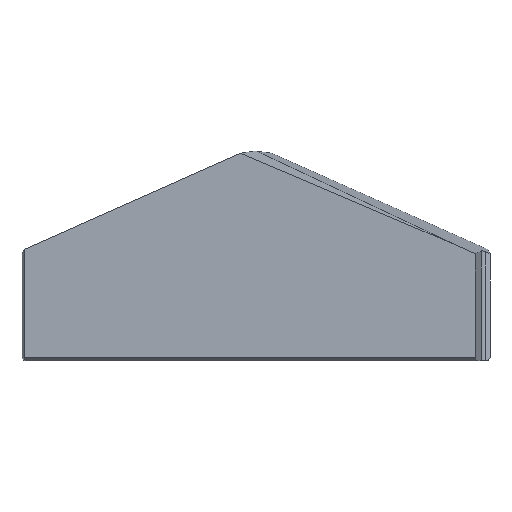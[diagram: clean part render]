
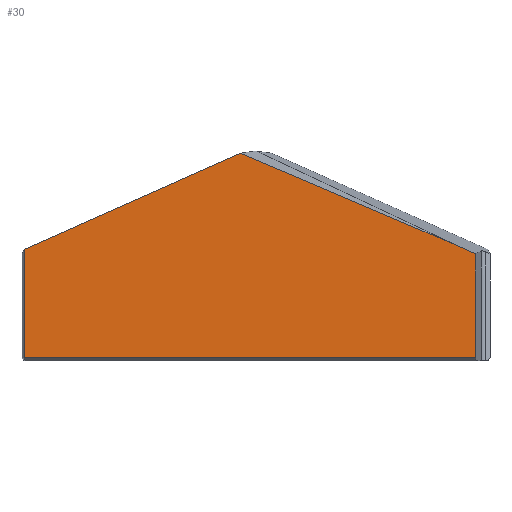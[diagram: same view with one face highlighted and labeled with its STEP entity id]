
A CAD part, top view. The second image highlights one B-rep face of the part: STEP entity #30.
In plain terms, the highlighted planar face has unit normal (0, 0, 1).
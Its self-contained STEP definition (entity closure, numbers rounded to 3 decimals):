
#11 = VERTEX_POINT ( 'NONE', #379 ) ;
#30 = ADVANCED_FACE ( 'NONE', ( #146 ), #46, .T. ) ;
#39 = CARTESIAN_POINT ( 'NONE',  ( -22.796, 0.3, 6.4 ) ) ;
#40 = VERTEX_POINT ( 'NONE', #95 ) ;
#46 = PLANE ( 'NONE',  #250 ) ;
#62 = DIRECTION ( 'NONE',  ( -0.92, 0.392, 0. ) ) ;
#76 = EDGE_CURVE ( 'NONE', #530, #410, #112, .T. ) ;
#81 = VECTOR ( 'NONE', #464, 1000. ) ;
#86 = ORIENTED_EDGE ( 'NONE', *, *, #192, .F. ) ;
#88 = VECTOR ( 'NONE', #599, 1000. ) ;
#95 = CARTESIAN_POINT ( 'NONE',  ( 21.57, 10.502, 6.4 ) ) ;
#99 = EDGE_CURVE ( 'NONE', #11, #419, #420, .T. ) ;
#105 = VECTOR ( 'NONE', #582, 1000. ) ;
#107 = CARTESIAN_POINT ( 'NONE',  ( 21.57, 0., 6.4 ) ) ;
#112 = LINE ( 'NONE', #629, #198 ) ;
#115 = VECTOR ( 'NONE', #522, 1000. ) ;
#136 = ORIENTED_EDGE ( 'NONE', *, *, #612, .T. ) ;
#141 = CARTESIAN_POINT ( 'NONE',  ( 0., 0., 6.4 ) ) ;
#143 = CARTESIAN_POINT ( 'NONE',  ( -22.794, 0.296, 6.4 ) ) ;
#146 = FACE_OUTER_BOUND ( 'NONE', #291, .T. ) ;
#150 = LINE ( 'NONE', #460, #81 ) ;
#164 = ORIENTED_EDGE ( 'NONE', *, *, #425, .T. ) ;
#170 = EDGE_CURVE ( 'NONE', #397, #530, #283, .T. ) ;
#179 = CARTESIAN_POINT ( 'NONE',  ( 22.622, 0.289, 6.4 ) ) ;
#192 = EDGE_CURVE ( 'NONE', #11, #410, #605, .T. ) ;
#198 = VECTOR ( 'NONE', #338, 1000. ) ;
#242 = CARTESIAN_POINT ( 'NONE',  ( 21.57, 0.289, 6.4 ) ) ;
#243 = LINE ( 'NONE', #107, #105 ) ;
#248 = CARTESIAN_POINT ( 'NONE',  ( -22.792, 0.292, 6.4 ) ) ;
#250 = AXIS2_PLACEMENT_3D ( 'NONE', #141, #524, #481 ) ;
#283 = LINE ( 'NONE', #448, #474 ) ;
#291 = EDGE_LOOP ( 'NONE', ( #478, #555, #542, #86, #519, #136, #164 ) ) ;
#335 = VERTEX_POINT ( 'NONE', #242 ) ;
#338 = DIRECTION ( 'NONE',  ( -0.914, -0.407, 0. ) ) ;
#379 = CARTESIAN_POINT ( 'NONE',  ( -22.796, 0.3, 6.4 ) ) ;
#388 = LINE ( 'NONE', #179, #115 ) ;
#397 = VERTEX_POINT ( 'NONE', #539 ) ;
#410 = VERTEX_POINT ( 'NONE', #443 ) ;
#419 = VERTEX_POINT ( 'NONE', #487 ) ;
#420 = B_SPLINE_CURVE_WITH_KNOTS ( 'NONE', 3,
 ( #39, #143, #248, #485 ),
 .UNSPECIFIED., .F., .F.,
 ( 4, 4 ),
 ( 0., 0. ),
 .UNSPECIFIED. ) ;
#425 = EDGE_CURVE ( 'NONE', #335, #40, #243, .T. ) ;
#443 = CARTESIAN_POINT ( 'NONE',  ( -22.796, 10.94, 6.4 ) ) ;
#448 = CARTESIAN_POINT ( 'NONE',  ( 7.119, 16.7, 6.4 ) ) ;
#460 = CARTESIAN_POINT ( 'NONE',  ( 7.471, 16.779, 6.4 ) ) ;
#464 = DIRECTION ( 'NONE',  ( -0.914, 0.407, 0. ) ) ;
#474 = VECTOR ( 'NONE', #62, 1000. ) ;
#478 = ORIENTED_EDGE ( 'NONE', *, *, #492, .T. ) ;
#481 = DIRECTION ( 'NONE',  ( 1., 0., 0. ) ) ;
#485 = CARTESIAN_POINT ( 'NONE',  ( -22.79, 0.289, 6.4 ) ) ;
#487 = CARTESIAN_POINT ( 'NONE',  ( -22.79, 0.289, 6.4 ) ) ;
#492 = EDGE_CURVE ( 'NONE', #40, #397, #150, .T. ) ;
#503 = CARTESIAN_POINT ( 'NONE',  ( -22.796, 0., 6.4 ) ) ;
#519 = ORIENTED_EDGE ( 'NONE', *, *, #99, .T. ) ;
#522 = DIRECTION ( 'NONE',  ( 1., 0., 0. ) ) ;
#524 = DIRECTION ( 'NONE',  ( 0., 0., 1. ) ) ;
#530 = VERTEX_POINT ( 'NONE', #565 ) ;
#539 = CARTESIAN_POINT ( 'NONE',  ( 19.57, 11.392, 6.4 ) ) ;
#542 = ORIENTED_EDGE ( 'NONE', *, *, #76, .T. ) ;
#555 = ORIENTED_EDGE ( 'NONE', *, *, #170, .T. ) ;
#565 = CARTESIAN_POINT ( 'NONE',  ( -1.555, 20.398, 6.4 ) ) ;
#582 = DIRECTION ( 'NONE',  ( 0., 1., 0. ) ) ;
#599 = DIRECTION ( 'NONE',  ( 0., 1., 0. ) ) ;
#605 = LINE ( 'NONE', #503, #88 ) ;
#612 = EDGE_CURVE ( 'NONE', #419, #335, #388, .T. ) ;
#629 = CARTESIAN_POINT ( 'NONE',  ( 0., 21.09, 6.4 ) ) ;
